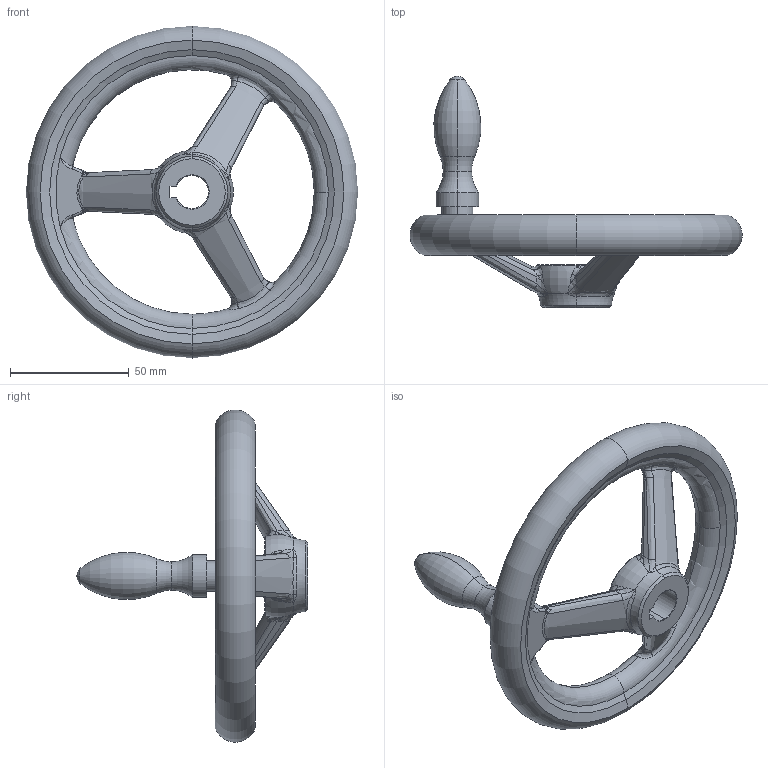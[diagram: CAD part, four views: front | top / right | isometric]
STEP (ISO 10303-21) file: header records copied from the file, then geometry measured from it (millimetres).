
FILE_DESCRIPTION (( 'STEP AP203' ), '1' );
FILE_NAME ('din950_d3_140x14.step', '2015-02-02T09:39:47', ( 'Magnus' ), ( 'Microsoft' ), 'SwSTEP 2.0', 'SolidWorks 2014', '' );
FILE_SCHEMA (( 'CONFIG_CONTROL_DESIGN' ));
Length unit declared in the file: millimetre
Products named in the file (1): din950_d3_140x14
Bounding box: 139.94 x 97.5 x 139.94 mm (x, y, z)
Volume: 127766.1 mm3; surface area: 32730.6 mm2
Topology: 1 solids, 1 shells, 214 faces, 526 edges, 287 vertices
Faces by surface type: bspline 140, torus 28, cone 18, plane 14, cylinder 12, sphere 2
Entity records: 11134 total; most frequent: CARTESIAN_POINT 7148, ORIENTED_EDGE 1006, DIRECTION 574, EDGE_CURVE 503, VERTEX_POINT 287, B_SPLINE_CURVE_WITH_KNOTS 269, AXIS2_PLACEMENT_3D 269, EDGE_LOOP 218
